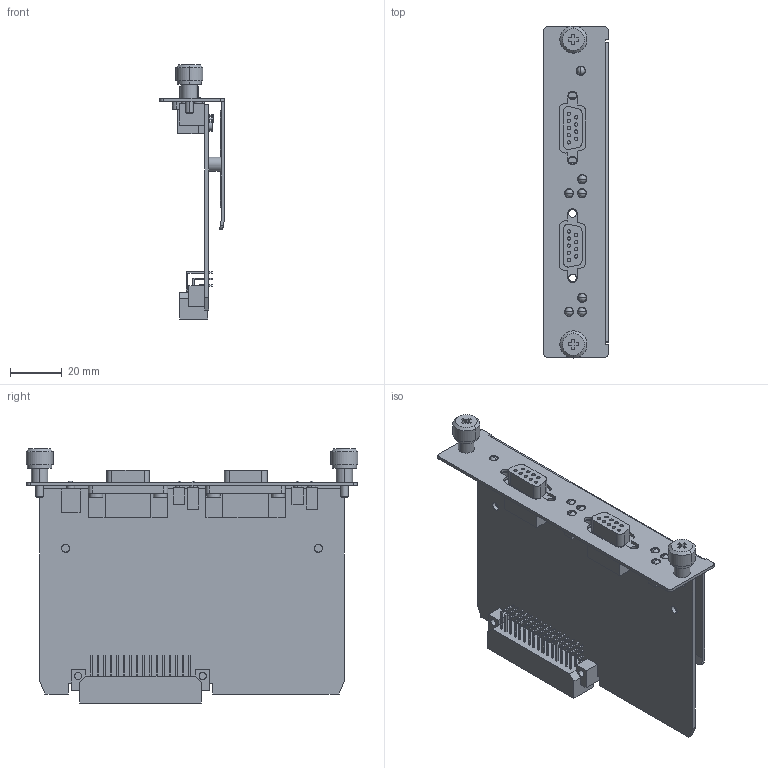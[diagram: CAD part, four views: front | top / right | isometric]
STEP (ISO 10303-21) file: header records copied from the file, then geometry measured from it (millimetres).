
FILE_DESCRIPTION((''),'2;1');
FILE_NAME('PRT0001','2016-03-03T',('Sam_Liu'),('PTC'),'PRO/ENGINEER BY PARAMETRIC TECHNOLOGY CORPORATION, 2013230','PRO/ENGINEER BY PARAMETRIC TECHNOLOGY CORPORATION, 2013230','');
FILE_SCHEMA(('AUTOMOTIVE_DESIGN { 1 0 10303 214 1 1 1 1 }'));
Length unit declared in the file: millimetre
Products named in the file (1): PRT0001
Bounding box: 25 x 128.7 x 98.5 mm (x, y, z)
Volume: 39199.7 mm3; surface area: 46559.8 mm2
Topology: 1 solids, 1 shells, 1291 faces, 3282 edges, 2167 vertices
Faces by surface type: plane 1029, cylinder 236, sphere 14, cone 8, torus 4
Entity records: 39768 total; most frequent: CARTESIAN_POINT 6728, ORIENTED_EDGE 6536, DIRECTION 6352, EDGE_CURVE 3268, VECTOR 2766, LINE 2766, VERTEX_POINT 2167, AXIS2_PLACEMENT_3D 1793
